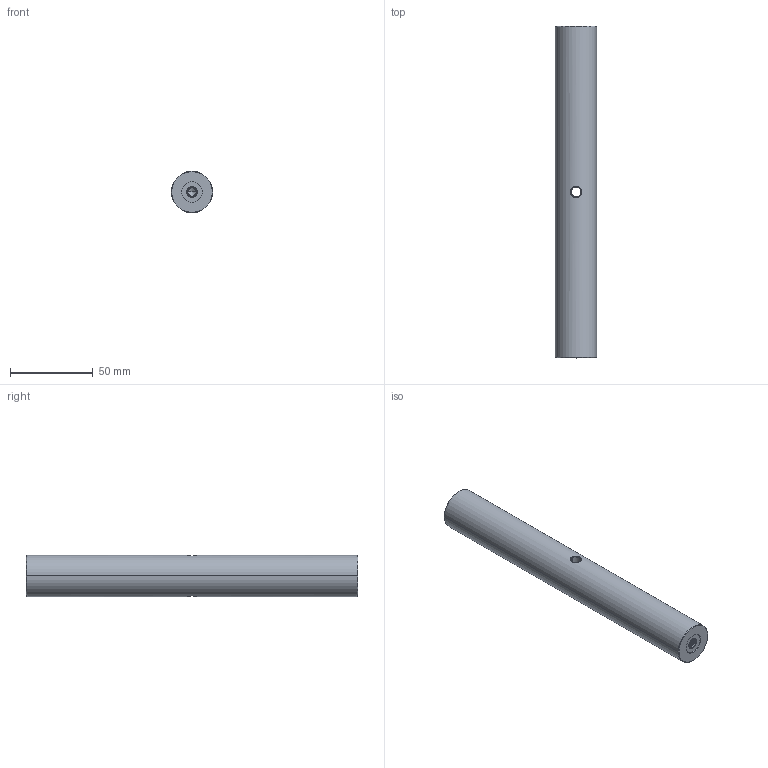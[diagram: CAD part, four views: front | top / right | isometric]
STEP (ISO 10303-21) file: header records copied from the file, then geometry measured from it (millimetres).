
FILE_DESCRIPTION((''),'2;1');
FILE_NAME('CFJP200-S','2020-10-30T',('Administrator'),(''),'CREO PARAMETRIC BY PTC INC, 2015290','CREO PARAMETRIC BY PTC INC, 2015290','');
FILE_SCHEMA(('CONFIG_CONTROL_DESIGN'));
Length unit declared in the file: millimetre
Products named in the file (1): CFJP200-S
Bounding box: 25 x 200 x 25 mm (x, y, z)
Volume: 96651.1 mm3; surface area: 17732.9 mm2
Topology: 1 solids, 1 shells, 98 faces, 258 edges, 162 vertices
Faces by surface type: cylinder 58, bspline 24, cone 12, plane 4
Entity records: 6540 total; most frequent: CARTESIAN_POINT 4422, ORIENTED_EDGE 508, DIRECTION 296, EDGE_CURVE 254, VERTEX_POINT 162, B_SPLINE_CURVE_WITH_KNOTS 134, EDGE_LOOP 104, AXIS2_PLACEMENT_3D 102
